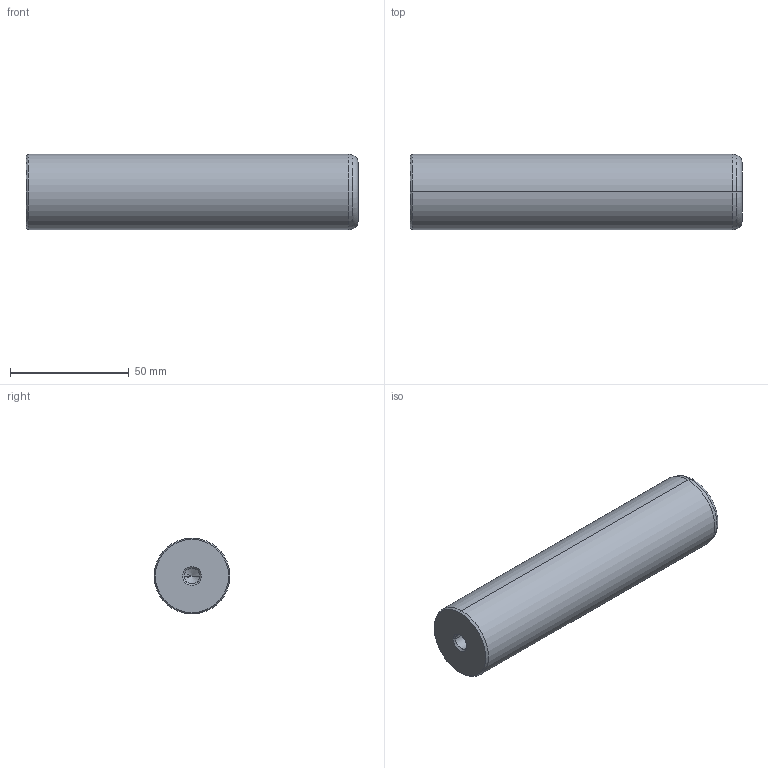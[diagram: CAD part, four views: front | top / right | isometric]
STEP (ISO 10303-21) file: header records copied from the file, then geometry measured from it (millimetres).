
FILE_DESCRIPTION(('CATIA V5 STEP Exchange'),'2;1');
FILE_NAME('C:\Users\Utente\Desktop\IO LAVORO\3D X SITO CF\X SITO\720\720-32x140.stp','2021-01-01T12:20:10+00:00',('none'),('none'),'CATIA Version 5 Release 20 GA (IN-10)','CATIA V5 STEP AP203','none');
FILE_SCHEMA(('CONFIG_CONTROL_DESIGN'));
Length unit declared in the file: millimetre
Products named in the file (1): 720-32x140
Bounding box: 140 x 32 x 32 mm (x, y, z)
Volume: 110542.2 mm3; surface area: 16467.1 mm2
Topology: 1 solids, 1 shells, 22 faces, 62 edges, 40 vertices
Faces by surface type: cone 12, cylinder 6, plane 2, torus 2
Entity records: 806 total; most frequent: CARTESIAN_POINT 229, ORIENTED_EDGE 116, DIRECTION 93, EDGE_CURVE 58, AXIS2_PLACEMENT_3D 54, VERTEX_POINT 40, CIRCLE 31, EDGE_LOOP 24
